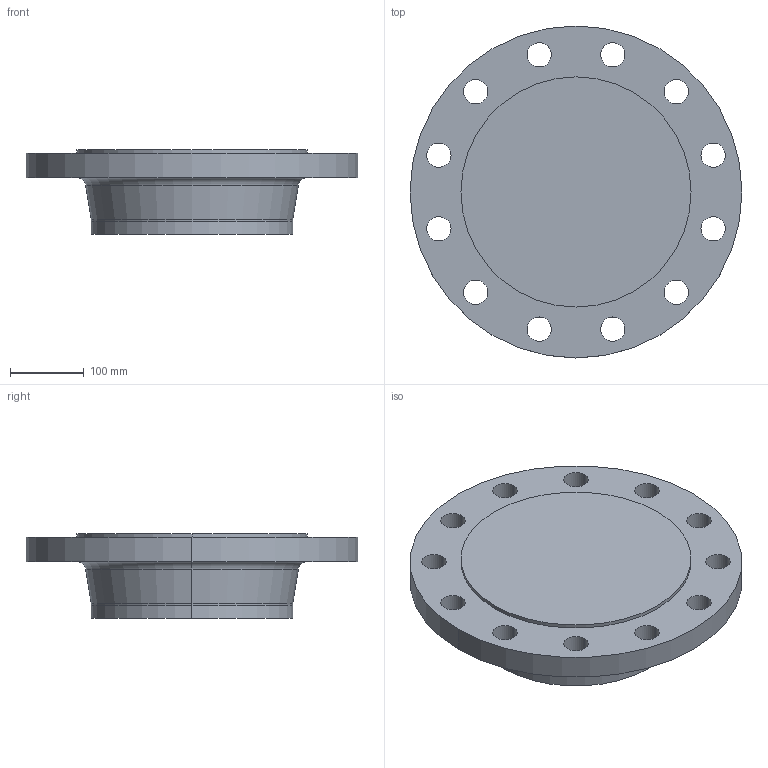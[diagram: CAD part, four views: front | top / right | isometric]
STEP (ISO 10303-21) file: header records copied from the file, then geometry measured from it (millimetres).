
FILE_DESCRIPTION (( 'STEP AP214' ), '1' );
FILE_NAME ('PN40 DN250 Type 21(ii) - Type E Face.STEP', '2019-01-05T03:25:33', ( '' ), ( '' ), 'SwSTEP 2.0', 'SolidWorks 2019', '' );
FILE_SCHEMA (( 'AUTOMOTIVE_DESIGN' ));
Length unit declared in the file: millimetre
Products named in the file (1): PN40 DN250 Type 21(ii) - Type E Face
Bounding box: 450 x 450 x 115 mm (x, y, z)
Volume: 10054615.3 mm3; surface area: 447153.6 mm2
Topology: 1 solids, 1 shells, 40 faces, 102 edges, 66 vertices
Faces by surface type: cylinder 30, torus 4, plane 4, cone 2
Entity records: 1330 total; most frequent: DIRECTION 254, CARTESIAN_POINT 209, ORIENTED_EDGE 204, AXIS2_PLACEMENT_3D 111, EDGE_CURVE 102, CIRCLE 70, EDGE_LOOP 66, VERTEX_POINT 66
